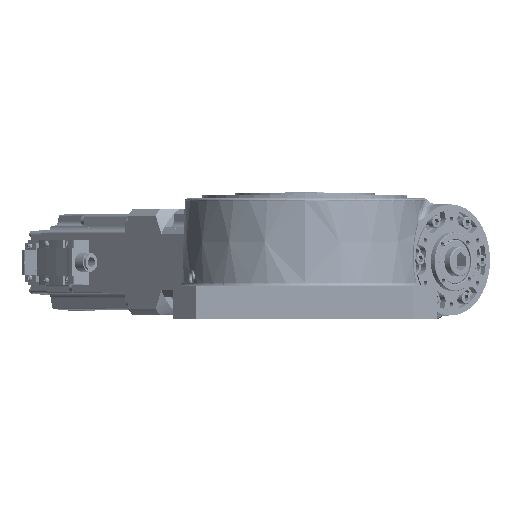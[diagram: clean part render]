
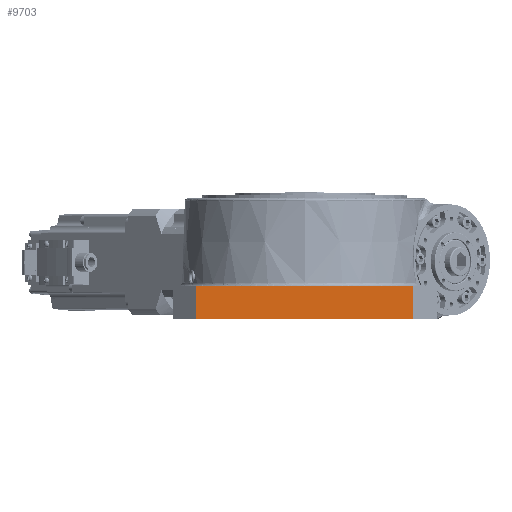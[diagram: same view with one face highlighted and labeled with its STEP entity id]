
A CAD part, top view. The second image highlights one B-rep face of the part: STEP entity #9703.
In plain terms, the highlighted planar face has unit normal (0, 0, 1) as drawn and (0, 1, 0) by its records, which use the part's own axes.
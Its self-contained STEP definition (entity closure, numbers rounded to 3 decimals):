
#4635 = CARTESIAN_POINT ( 'NONE',  ( 112.5, 112.5, 12. ) ) ;
#4658 = VERTEX_POINT ( 'NONE', #13183 ) ;
#4957 = CARTESIAN_POINT ( 'NONE',  ( -92.5, 112.5, 40. ) ) ;
#5295 = DIRECTION ( 'NONE',  ( 1., 0., 0. ) ) ;
#6099 = PLANE ( 'NONE',  #53742 ) ;
#6247 = VECTOR ( 'NONE', #64521, 1000. ) ;
#9703 = ADVANCED_FACE ( 'NONE', ( #98028 ), #6099, .T. ) ;
#11511 = CARTESIAN_POINT ( 'NONE',  ( 92.5, 112.5, 40. ) ) ;
#13183 = CARTESIAN_POINT ( 'NONE',  ( 92.5, 112.5, 12. ) ) ;
#19669 = DIRECTION ( 'NONE',  ( 1., 0., 0. ) ) ;
#21908 = CARTESIAN_POINT ( 'NONE',  ( 92.5, 112.5, 12. ) ) ;
#27545 = DIRECTION ( 'NONE',  ( 0., 0., 1. ) ) ;
#29543 = EDGE_CURVE ( 'NONE', #63074, #4658, #52750, .T. ) ;
#31967 = ORIENTED_EDGE ( 'NONE', *, *, #29543, .T. ) ;
#32089 = EDGE_CURVE ( 'NONE', #62666, #63074, #82038, .T. ) ;
#37767 = EDGE_CURVE ( 'NONE', #103847, #4658, #65649, .T. ) ;
#42897 = ORIENTED_EDGE ( 'NONE', *, *, #32089, .T. ) ;
#44067 = VECTOR ( 'NONE', #19669, 1000. ) ;
#52273 = CARTESIAN_POINT ( 'NONE',  ( 92.5, 112.5, 40. ) ) ;
#52750 = LINE ( 'NONE', #21908, #93264 ) ;
#53132 = CARTESIAN_POINT ( 'NONE',  ( -92.5, 112.5, 12. ) ) ;
#53742 = AXIS2_PLACEMENT_3D ( 'NONE', #67756, #129477, #27545 ) ;
#62666 = VERTEX_POINT ( 'NONE', #4957 ) ;
#63074 = VERTEX_POINT ( 'NONE', #52273 ) ;
#64521 = DIRECTION ( 'NONE',  ( 0., 0., 1. ) ) ;
#65649 = LINE ( 'NONE', #4635, #108081 ) ;
#67756 = CARTESIAN_POINT ( 'NONE',  ( 92.5, 112.5, 12. ) ) ;
#67780 = ORIENTED_EDGE ( 'NONE', *, *, #105950, .T. ) ;
#73963 = LINE ( 'NONE', #53132, #6247 ) ;
#82038 = LINE ( 'NONE', #11511, #44067 ) ;
#83226 = EDGE_LOOP ( 'NONE', ( #113755, #67780, #42897, #31967 ) ) ;
#93264 = VECTOR ( 'NONE', #103771, 1000. ) ;
#98028 = FACE_OUTER_BOUND ( 'NONE', #83226, .T. ) ;
#102665 = CARTESIAN_POINT ( 'NONE',  ( -92.5, 112.5, 12. ) ) ;
#103771 = DIRECTION ( 'NONE',  ( 0., 0., -1. ) ) ;
#103847 = VERTEX_POINT ( 'NONE', #102665 ) ;
#105950 = EDGE_CURVE ( 'NONE', #103847, #62666, #73963, .T. ) ;
#108081 = VECTOR ( 'NONE', #5295, 1000. ) ;
#113755 = ORIENTED_EDGE ( 'NONE', *, *, #37767, .F. ) ;
#129477 = DIRECTION ( 'NONE',  ( 0., 1., 0. ) ) ;
